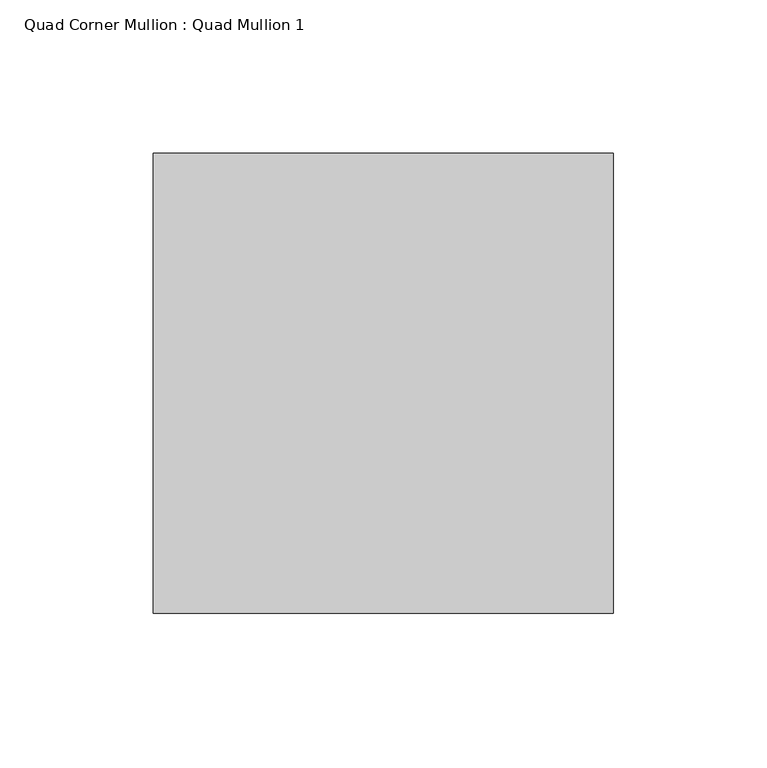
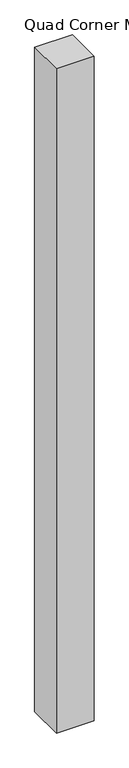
"""IFC4 building model written with IfcOpenShell, lengths in millimetres: member geometry, Quad Corner Mullion : Quad Mullion 1."""

from ifc_helpers import new_model, si_unit, frame, origin, place, context, project, spatial, polyline, outline, extrude, source, transform, mapped, element, save


def quad_corner_mullion_quad_mullion_1_e3694288(model_context):
    return source(origin(), model_context, "Body", "SweptSolid", [
        extrude(outline(polyline([(75.0, 75.0), (75.0, -75.0), (-75.0, -75.0), (-75.0, 75.0), (75.0, 75.0)])), frame((0.0, 0.0, -2800.0), z_axis=(0.0, 0.0, 1.0), x_axis=(1.0, 0.0, 0.0)), (0.0, 0.0, 1.0), 2800.0),
    ])


if __name__ == "__main__":
    model = new_model("IFC4")
    model_context = context("Model", 3, world=origin())
    ifc_project = project(units=[si_unit("LENGTHUNIT", "METRE", prefix="MILLI")], contexts=[model_context])
    site = spatial("IfcSite", under=ifc_project)
    building = spatial("IfcBuilding", under=site)
    placement = place(None, origin())
    quad_corner_mullion_quad_mullion_1_shape = quad_corner_mullion_quad_mullion_1_e3694288(model_context)
    element("IfcMember", 1, ObjectType="Quad Corner Mullion : Quad Mullion 1", at=placement, inside=building, context=model_context, shape_type="MappedRepresentation", body=[
        mapped(quad_corner_mullion_quad_mullion_1_shape, transform((0.0, 0.0, 0.0), x_axis=(1.0, 0.0, 0.0), y_axis=(0.0, 1.0, 0.0), z_axis=(0.0, 0.0, 1.0))),
    ])
    save(model, "model.ifc")
